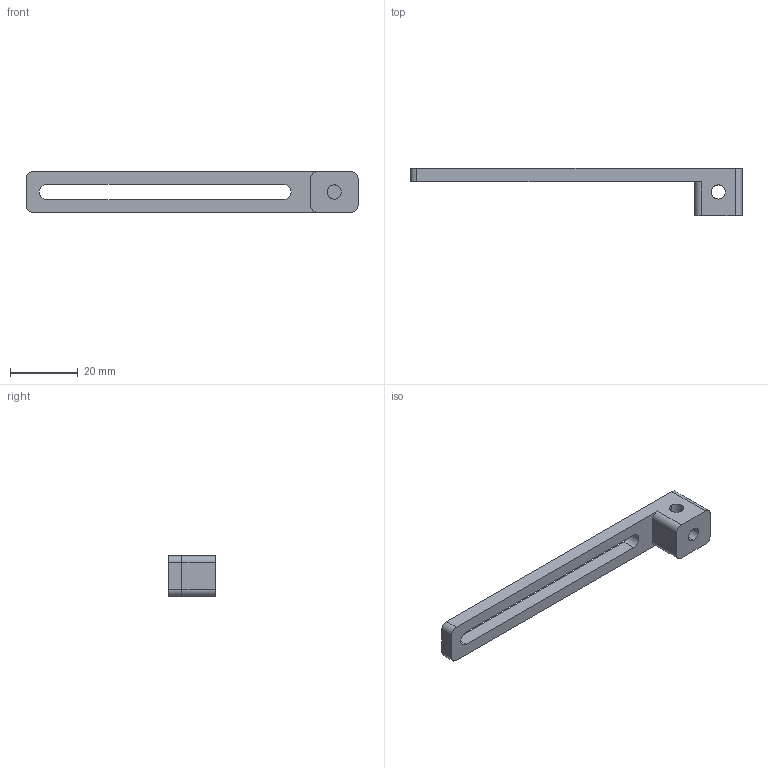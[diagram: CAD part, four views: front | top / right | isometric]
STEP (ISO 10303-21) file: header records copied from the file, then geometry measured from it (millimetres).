
FILE_DESCRIPTION (( 'STEP AP214' ), '1' );
FILE_NAME ('SCF2-70M5.STEP', '2019-11-06T07:46:27', ( '微软用户' ), ( '微软中国' ), 'SwSTEP 2.0', 'SolidWorks 2016', '' );
FILE_SCHEMA (( 'AUTOMOTIVE_DESIGN' ));
Length unit declared in the file: millimetre
Products named in the file (1): SCF2-70M5
Bounding box: 98 x 14 x 12 mm (x, y, z)
Volume: 4726.4 mm3; surface area: 3875.6 mm2
Topology: 1 solids, 1 shells, 27 faces, 72 edges, 46 vertices
Faces by surface type: cylinder 16, plane 11
Entity records: 888 total; most frequent: CARTESIAN_POINT 170, ORIENTED_EDGE 144, DIRECTION 144, EDGE_CURVE 72, AXIS2_PLACEMENT_3D 52, VERTEX_POINT 46, VECTOR 40, LINE 40
